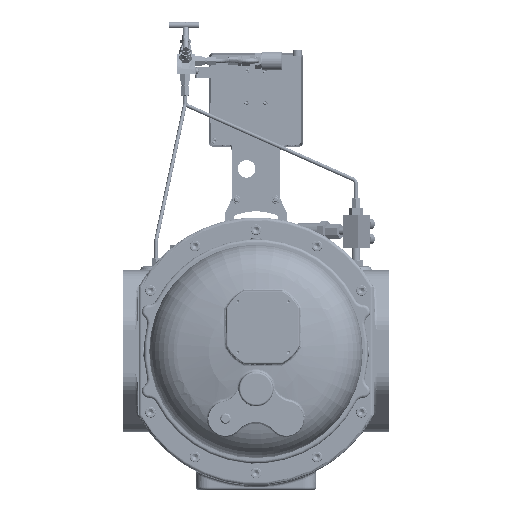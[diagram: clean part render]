
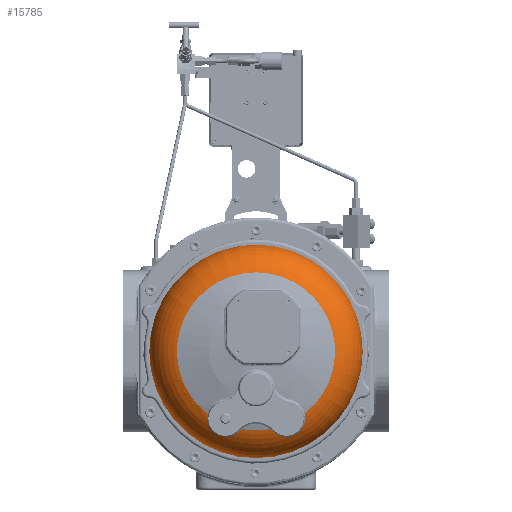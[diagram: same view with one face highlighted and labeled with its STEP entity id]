
A CAD part, left-side view. The second image highlights one B-rep face of the part: STEP entity #15785.
In plain terms, the highlighted toroidal (fillet/blend) face has major radius 113.213 mm and minor radius 67.949 mm.
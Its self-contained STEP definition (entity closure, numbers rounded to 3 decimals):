
#15785=ADVANCED_FACE('',(#131395,#131397),#131399,.T.);
#131395=FACE_OUTER_BOUND('',#131396,.T.);
#131396=EDGE_LOOP('',(#211660));
#131397=FACE_BOUND('',#131398,.T.);
#131398=EDGE_LOOP('',(#211661,#211662,#211663,#211664,#211665,#211666,#211667));
#131399=TOROIDAL_SURFACE('',#131400,113.213,67.949);
#131400=AXIS2_PLACEMENT_3D('',#131401,#131402,#131403);
#131401=CARTESIAN_POINT('',(-344.309,0.,0.));
#131402=DIRECTION('',(-1.,0.,0.));
#131403=DIRECTION('',(0.,0.,1.));
#211660=ORIENTED_EDGE('',*,*,#279900,.F.);
#211661=ORIENTED_EDGE('',*,*,#280006,.T.);
#211662=ORIENTED_EDGE('',*,*,#280007,.F.);
#211663=ORIENTED_EDGE('',*,*,#280008,.F.);
#211664=ORIENTED_EDGE('',*,*,#280009,.T.);
#211665=ORIENTED_EDGE('',*,*,#280010,.T.);
#211666=ORIENTED_EDGE('',*,*,#280011,.F.);
#211667=ORIENTED_EDGE('',*,*,#280012,.T.);
#279900=EDGE_CURVE('',#314217,#314217,#314218,.F.);
#280006=EDGE_CURVE('',#314397,#314398,#314399,.F.);
#280007=EDGE_CURVE('',#314400,#314398,#314401,.T.);
#280008=EDGE_CURVE('',#314402,#314400,#314403,.T.);
#280009=EDGE_CURVE('',#314402,#314404,#314405,.F.);
#280010=EDGE_CURVE('',#314404,#314406,#314407,.F.);
#280011=EDGE_CURVE('',#314408,#314406,#314409,.T.);
#280012=EDGE_CURVE('',#314408,#314397,#314410,.T.);
#314217=VERTEX_POINT('',#392132);
#314218=CIRCLE('',#392133,181.);
#314397=VERTEX_POINT('',#392856);
#314398=VERTEX_POINT('',#392857);
#314399=B_SPLINE_CURVE_WITH_KNOTS('',3,
(#392858,#392859,#392860,#392861,#392862,#392863,#392864,#392865,#392866,#392867,
#392868,#392869,#392870,#392871,#392872,#392873,#392874,#392875,#392876,#392877,
#392878,#392879,#392880,#392881,#392882,#392883,#392884),
.UNSPECIFIED.,.F.,.F.,
(4,1,1,1,1,1,1,1,1,1,1,1,1,1,1,1,1,1,1,1,1,1,1,1,4),
(0.,0.067,0.125,0.179,0.233,0.284,
0.328,0.368,0.407,0.443,0.478,
0.51,0.539,0.564,0.593,0.624,
0.66,0.698,0.743,0.79,0.842,
0.89,0.934,0.969,1.),
.UNSPECIFIED.);
#314400=VERTEX_POINT('',#392885);
#314401=CIRCLE('',#392886,134.);
#314402=VERTEX_POINT('',#392890);
#314403=CIRCLE('',#392891,134.);
#314404=VERTEX_POINT('',#392895);
#314405=B_SPLINE_CURVE_WITH_KNOTS('',3,
(#392896,#392897,#392898,#392899,#392900,#392901,#392902,#392903,#392904,#392905,
#392906,#392907,#392908,#392909,#392910,#392911,#392912,#392913,#392914,#392915,
#392916,#392917,#392918,#392919,#392920,#392921),
.UNSPECIFIED.,.F.,.F.,
(4,1,1,1,1,1,1,1,1,1,1,1,1,1,1,1,1,1,1,1,1,1,1,4),
(0.,0.074,0.138,0.188,0.237,0.28,
0.321,0.358,0.395,0.428,0.457,
0.481,0.506,0.533,0.565,0.601,
0.638,0.68,0.724,0.774,0.824,
0.875,0.934,1.),
.UNSPECIFIED.);
#314406=VERTEX_POINT('',#392922);
#314407=B_SPLINE_CURVE_WITH_KNOTS('',3,
(#392923,#392924,#392925,#392926,#392927,#392928),
.UNSPECIFIED.,.F.,.F.,
(4,1,1,4),
(0.,0.333,0.667,1.),
.UNSPECIFIED.);
#314408=VERTEX_POINT('',#392929);
#314409=CIRCLE('',#392930,134.);
#314410=B_SPLINE_CURVE_WITH_KNOTS('',3,
(#392934,#392935,#392936,#392937,#392938,#392939,#392940),
.UNSPECIFIED.,.F.,.F.,
(4,1,1,1,4),
(0.,0.333,0.667,0.889,1.),
.UNSPECIFIED.);
#392132=CARTESIAN_POINT('',(-349.,0.,181.));
#392133=AXIS2_PLACEMENT_3D('',#392134,#392135,#392136);
#392134=CARTESIAN_POINT('',(-349.,0.,0.));
#392135=DIRECTION('',(-1.,0.,0.));
#392136=DIRECTION('',(0.,0.,1.));
#392856=CARTESIAN_POINT('',(-407.921,26.7,-134.475));
#392857=CARTESIAN_POINT('',(-409.,82.998,-105.202));
#392858=CARTESIAN_POINT('',(-409.,82.998,-105.202));
#392859=CARTESIAN_POINT('',(-408.452,83.417,-107.041));
#392860=CARTESIAN_POINT('',(-407.342,83.861,-110.527));
#392861=CARTESIAN_POINT('',(-405.615,83.676,-115.479));
#392862=CARTESIAN_POINT('',(-403.969,82.841,-119.986));
#392863=CARTESIAN_POINT('',(-402.415,81.453,-124.158));
#392864=CARTESIAN_POINT('',(-401.022,79.604,-127.931));
#392865=CARTESIAN_POINT('',(-399.878,77.496,-131.157));
#392866=CARTESIAN_POINT('',(-398.974,75.242,-133.897));
#392867=CARTESIAN_POINT('',(-398.28,72.863,-136.25));
#392868=CARTESIAN_POINT('',(-397.778,70.344,-138.292));
#392869=CARTESIAN_POINT('',(-397.473,67.796,-139.986));
#392870=CARTESIAN_POINT('',(-397.344,65.294,-141.346));
#392871=CARTESIAN_POINT('',(-397.358,62.939,-142.39));
#392872=CARTESIAN_POINT('',(-397.484,60.614,-143.224));
#392873=CARTESIAN_POINT('',(-397.725,58.171,-143.905));
#392874=CARTESIAN_POINT('',(-398.126,55.399,-144.448));
#392875=CARTESIAN_POINT('',(-398.716,52.317,-144.771));
#392876=CARTESIAN_POINT('',(-399.537,48.875,-144.793));
#392877=CARTESIAN_POINT('',(-400.589,45.179,-144.418));
#392878=CARTESIAN_POINT('',(-401.882,41.238,-143.54));
#392879=CARTESIAN_POINT('',(-403.302,37.387,-142.151));
#392880=CARTESIAN_POINT('',(-404.726,33.854,-140.338));
#392881=CARTESIAN_POINT('',(-405.98,30.931,-138.374));
#392882=CARTESIAN_POINT('',(-407.038,28.592,-136.407));
#392883=CARTESIAN_POINT('',(-407.643,27.275,-135.114));
#392884=CARTESIAN_POINT('',(-407.921,26.7,-134.475));
#392885=CARTESIAN_POINT('',(-409.,0.,134.));
#392886=AXIS2_PLACEMENT_3D('',#392887,#392888,#392889);
#392887=CARTESIAN_POINT('',(-409.,0.,0.));
#392888=DIRECTION('',(-1.,0.,0.));
#392889=DIRECTION('',(0.,0.,1.));
#392890=CARTESIAN_POINT('',(-409.,-82.998,-105.202));
#392891=AXIS2_PLACEMENT_3D('',#392892,#392893,#392894);
#392892=CARTESIAN_POINT('',(-409.,0.,0.));
#392893=DIRECTION('',(-1.,0.,0.));
#392894=DIRECTION('',(0.,-0.619,-0.785));
#392895=CARTESIAN_POINT('',(-407.921,-26.7,-134.475));
#392896=CARTESIAN_POINT('',(-407.921,-26.7,-134.475));
#392897=CARTESIAN_POINT('',(-407.258,-28.073,-136.001));
#392898=CARTESIAN_POINT('',(-405.953,-30.963,-138.525));
#392899=CARTESIAN_POINT('',(-404.08,-35.399,-141.242));
#392900=CARTESIAN_POINT('',(-402.477,-39.579,-143.008));
#392901=CARTESIAN_POINT('',(-401.15,-43.41,-144.081));
#392902=CARTESIAN_POINT('',(-400.015,-47.13,-144.663));
#392903=CARTESIAN_POINT('',(-399.104,-50.606,-144.826));
#392904=CARTESIAN_POINT('',(-398.384,-53.946,-144.64));
#392905=CARTESIAN_POINT('',(-397.866,-57.058,-144.162));
#392906=CARTESIAN_POINT('',(-397.539,-59.895,-143.453));
#392907=CARTESIAN_POINT('',(-397.38,-62.349,-142.619));
#392908=CARTESIAN_POINT('',(-397.341,-64.505,-141.709));
#392909=CARTESIAN_POINT('',(-397.398,-66.558,-140.678));
#392910=CARTESIAN_POINT('',(-397.567,-68.702,-139.409));
#392911=CARTESIAN_POINT('',(-397.893,-71.004,-137.788));
#392912=CARTESIAN_POINT('',(-398.407,-73.355,-135.796));
#392913=CARTESIAN_POINT('',(-399.131,-75.686,-133.401));
#392914=CARTESIAN_POINT('',(-400.065,-77.885,-130.619));
#392915=CARTESIAN_POINT('',(-401.23,-79.914,-127.364));
#392916=CARTESIAN_POINT('',(-402.581,-81.619,-123.714));
#392917=CARTESIAN_POINT('',(-404.066,-82.897,-119.721));
#392918=CARTESIAN_POINT('',(-405.66,-83.687,-115.352));
#392919=CARTESIAN_POINT('',(-407.361,-83.856,-110.467));
#392920=CARTESIAN_POINT('',(-408.462,-83.41,-107.01));
#392921=CARTESIAN_POINT('',(-409.,-82.998,-105.202));
#392922=CARTESIAN_POINT('',(-409.,-23.979,-131.837));
#392923=CARTESIAN_POINT('',(-409.,-23.979,-131.837));
#392924=CARTESIAN_POINT('',(-408.895,-24.304,-132.112));
#392925=CARTESIAN_POINT('',(-408.671,-24.929,-132.685));
#392926=CARTESIAN_POINT('',(-408.312,-25.84,-133.563));
#392927=CARTESIAN_POINT('',(-408.054,-26.417,-134.169));
#392928=CARTESIAN_POINT('',(-407.921,-26.7,-134.475));
#392929=CARTESIAN_POINT('',(-409.,23.979,-131.837));
#392930=AXIS2_PLACEMENT_3D('',#392931,#392932,#392933);
#392931=CARTESIAN_POINT('',(-409.,0.,0.));
#392932=DIRECTION('',(-1.,0.,0.));
#392933=DIRECTION('',(0.,0.179,-0.984));
#392934=CARTESIAN_POINT('',(-409.,23.979,-131.837));
#392935=CARTESIAN_POINT('',(-408.893,24.298,-132.118));
#392936=CARTESIAN_POINT('',(-408.672,24.932,-132.682));
#392937=CARTESIAN_POINT('',(-408.352,25.738,-133.466));
#392938=CARTESIAN_POINT('',(-408.097,26.321,-134.068));
#392939=CARTESIAN_POINT('',(-407.965,26.606,-134.373));
#392940=CARTESIAN_POINT('',(-407.921,26.7,-134.475));
